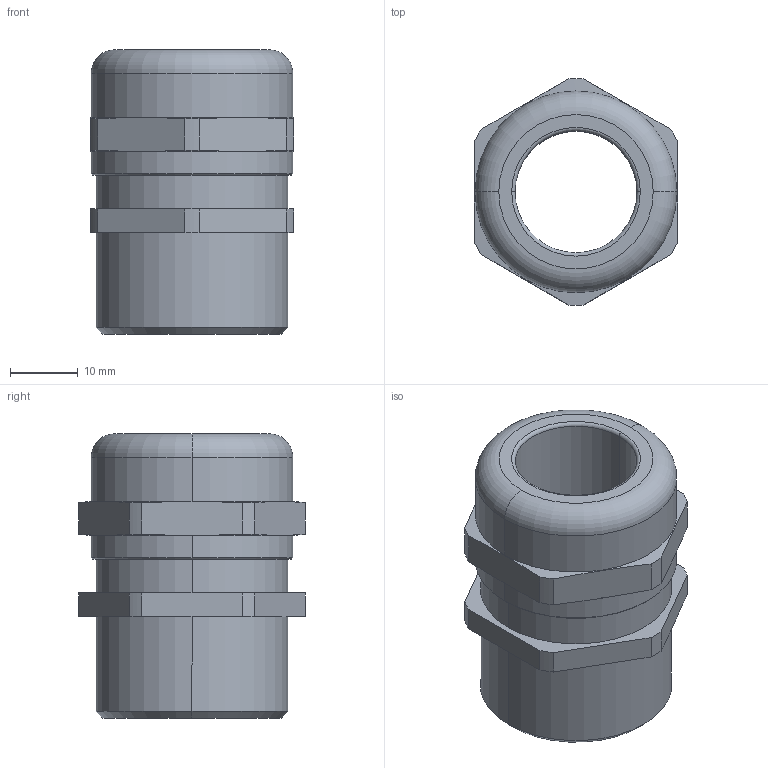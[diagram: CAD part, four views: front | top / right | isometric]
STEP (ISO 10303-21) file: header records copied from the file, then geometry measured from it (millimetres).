
FILE_DESCRIPTION (( 'STEP AP203' ), '1' );
FILE_NAME ('50.021-15MM.STEP', '2005-11-22T08:44:07', ( ' ' ), ( '' ), 'SwSTEP 2.0', 'SolidWorks 2005278', '' );
FILE_SCHEMA (( 'CONFIG_CONTROL_DESIGN' ));
Length unit declared in the file: millimetre
Products named in the file (1): 50.021-15MM
Bounding box: 30 x 33.49 x 42 mm (x, y, z)
Volume: 17612.6 mm3; surface area: 7386.9 mm2
Topology: 1 solids, 1 shells, 88 faces, 228 edges, 148 vertices
Faces by surface type: plane 54, cylinder 22, cone 8, torus 4
Entity records: 2777 total; most frequent: CARTESIAN_POINT 521, ORIENTED_EDGE 456, DIRECTION 446, EDGE_CURVE 228, VECTOR 156, LINE 156, VERTEX_POINT 148, AXIS2_PLACEMENT_3D 145
